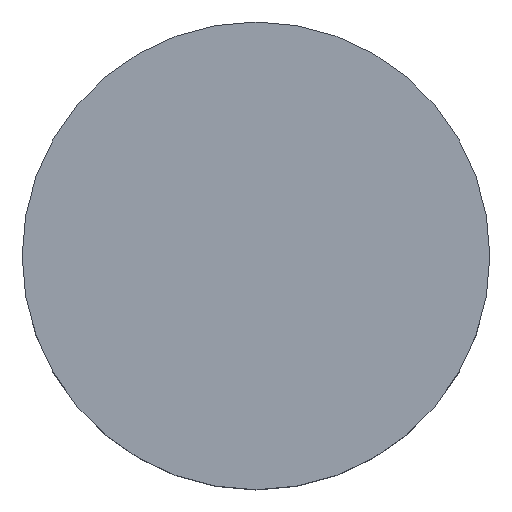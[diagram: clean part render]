
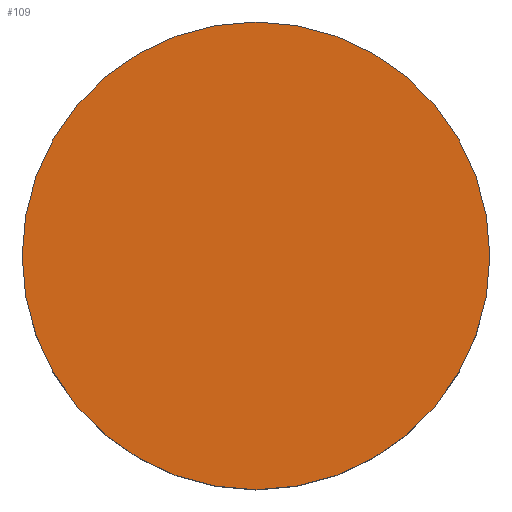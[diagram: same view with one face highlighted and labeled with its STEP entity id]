
A CAD part, top view. The second image highlights one B-rep face of the part: STEP entity #109.
In plain terms, the highlighted planar face has unit normal (0, 0, 1).
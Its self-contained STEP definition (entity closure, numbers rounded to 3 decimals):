
#24 = VERTEX_POINT('',#25);
#25 = CARTESIAN_POINT('',(6.,28.,16.));
#32 = CYLINDRICAL_SURFACE('',#33,6.);
#33 = AXIS2_PLACEMENT_3D('',#34,#35,#36);
#34 = CARTESIAN_POINT('',(0.,28.,12.));
#35 = DIRECTION('',(-0.,-0.,-1.));
#36 = DIRECTION('',(1.,0.,0.));
#51 = EDGE_CURVE('',#24,#24,#52,.T.);
#52 = SURFACE_CURVE('',#53,(#58,#65),.PCURVE_S1.);
#53 = CIRCLE('',#54,6.);
#54 = AXIS2_PLACEMENT_3D('',#55,#56,#57);
#55 = CARTESIAN_POINT('',(0.,28.,16.));
#56 = DIRECTION('',(0.,0.,1.));
#57 = DIRECTION('',(1.,0.,0.));
#58 = PCURVE('',#32,#59);
#59 = DEFINITIONAL_REPRESENTATION('',(#60),#64);
#60 = LINE('',#61,#62);
#61 = CARTESIAN_POINT('',(-0.,-4.));
#62 = VECTOR('',#63,1.);
#63 = DIRECTION('',(-1.,0.));
#64 = ( GEOMETRIC_REPRESENTATION_CONTEXT(2) 
PARAMETRIC_REPRESENTATION_CONTEXT() REPRESENTATION_CONTEXT('2D SPACE',''
  ) );
#65 = PCURVE('',#66,#71);
#66 = PLANE('',#67);
#67 = AXIS2_PLACEMENT_3D('',#68,#69,#70);
#68 = CARTESIAN_POINT('',(0.,28.,16.));
#69 = DIRECTION('',(0.,0.,1.));
#70 = DIRECTION('',(1.,0.,-0.));
#71 = DEFINITIONAL_REPRESENTATION('',(#72),#76);
#72 = CIRCLE('',#73,6.);
#73 = AXIS2_PLACEMENT_2D('',#74,#75);
#74 = CARTESIAN_POINT('',(0.,0.));
#75 = DIRECTION('',(1.,0.));
#76 = ( GEOMETRIC_REPRESENTATION_CONTEXT(2) 
PARAMETRIC_REPRESENTATION_CONTEXT() REPRESENTATION_CONTEXT('2D SPACE',''
  ) );
#109 = ADVANCED_FACE('',(#110),#66,.T.);
#110 = FACE_BOUND('',#111,.T.);
#111 = EDGE_LOOP('',(#112));
#112 = ORIENTED_EDGE('',*,*,#51,.T.);
